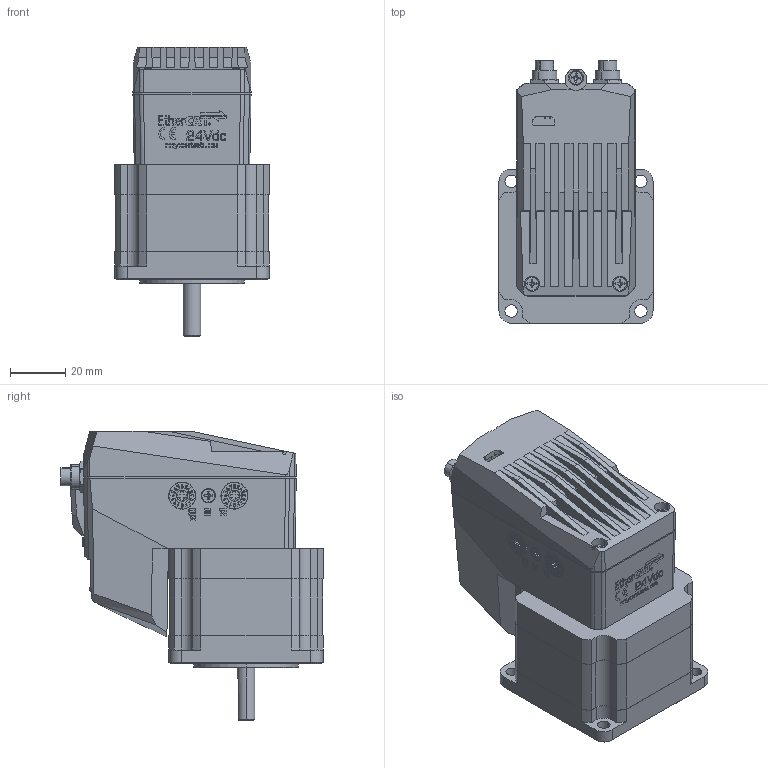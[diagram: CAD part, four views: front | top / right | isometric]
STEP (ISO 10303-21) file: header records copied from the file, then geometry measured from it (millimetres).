
FILE_DESCRIPTION (( 'STEP AP214' ), '1' );
FILE_NAME ('CM1-E-23S30.STEP', '2019-10-28T18:04:23', ( '' ), ( '' ), 'SwSTEP 2.0', 'SolidWorks 2019', '' );
FILE_SCHEMA (( 'AUTOMOTIVE_DESIGN' ));
Length unit declared in the file: millimetre
Products named in the file (1): CM1-E-23S30
Bounding box: 56 x 95.24 x 105.04 mm (x, y, z)
Surface area: 61450.6 mm2 (no closed solid volume)
Topology: 0 solids, 23 shells, 3359 faces, 10257 edges, 6923 vertices
Faces by surface type: plane 2148, cylinder 683, bspline 363, cone 151, sphere 8, torus 6
Entity records: 195973 total; most frequent: CARTESIAN_POINT 72693, ORIENTED_EDGE 18914, DIRECTION 15216, EDGE_CURVE 10237, LINE 7156, VECTOR 7156, VERTEX_POINT 6923, AXIS2_PLACEMENT_3D 4030
